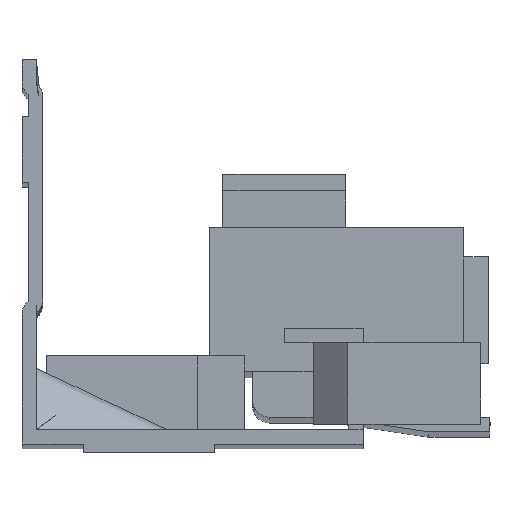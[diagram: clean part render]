
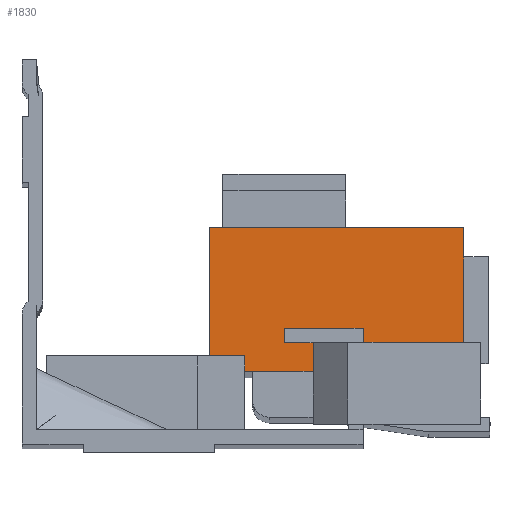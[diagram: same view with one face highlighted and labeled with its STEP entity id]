
A CAD part, front view. The second image highlights one B-rep face of the part: STEP entity #1830.
In plain terms, the highlighted planar face has unit normal (0, -1, 0).
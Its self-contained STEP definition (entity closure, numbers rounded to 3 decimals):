
#393 = ORIENTED_EDGE ( 'NONE', *, *, #3174, .F. ) ;
#394 = ORIENTED_EDGE ( 'NONE', *, *, #3173, .F. ) ;
#395 = ORIENTED_EDGE ( 'NONE', *, *, #3172, .F. ) ;
#396 = ORIENTED_EDGE ( 'NONE', *, *, #3113, .F. ) ;
#397 = ORIENTED_EDGE ( 'NONE', *, *, #3124, .F. ) ;
#398 = ORIENTED_EDGE ( 'NONE', *, *, #3131, .T. ) ;
#399 = ORIENTED_EDGE ( 'NONE', *, *, #3160, .T. ) ;
#400 = ORIENTED_EDGE ( 'NONE', *, *, #3171, .T. ) ;
#401 = ORIENTED_EDGE ( 'NONE', *, *, #3170, .T. ) ;
#402 = ORIENTED_EDGE ( 'NONE', *, *, #3169, .T. ) ;
#403 = ORIENTED_EDGE ( 'NONE', *, *, #3168, .F. ) ;
#404 = ORIENTED_EDGE ( 'NONE', *, *, #3167, .F. ) ;
#450 = EDGE_LOOP ( 'NONE', ( #404, #403, #402, #401, #400, #399, #398, #397, #396, #395, #394, #393 ) ) ;
#932 = AXIS2_PLACEMENT_3D ( 'NONE', #1901, #1902, #1903 ) ;
#1133 = FACE_OUTER_BOUND ( 'NONE', #450, .T. ) ;
#1224 = LINE ( 'NONE', #2054, #1225 ) ;
#1225 = VECTOR ( 'NONE', #2055, 1000. ) ;
#1246 = LINE ( 'NONE', #2076, #1247 ) ;
#1247 = VECTOR ( 'NONE', #2077, 1000. ) ;
#1260 = LINE ( 'NONE', #2090, #1261 ) ;
#1261 = VECTOR ( 'NONE', #2091, 1000. ) ;
#1316 = LINE ( 'NONE', #2152, #1317 ) ;
#1317 = VECTOR ( 'NONE', #2153, 1000. ) ;
#1330 = LINE ( 'NONE', #2166, #1331 ) ;
#1331 = VECTOR ( 'NONE', #2167, 1000. ) ;
#1332 = LINE ( 'NONE', #2168, #1333 ) ;
#1333 = VECTOR ( 'NONE', #2169, 1000. ) ;
#1334 = LINE ( 'NONE', #2170, #1335 ) ;
#1335 = VECTOR ( 'NONE', #2171, 1000. ) ;
#1336 = LINE ( 'NONE', #2172, #1337 ) ;
#1337 = VECTOR ( 'NONE', #2173, 1000. ) ;
#1338 = LINE ( 'NONE', #2174, #1339 ) ;
#1339 = VECTOR ( 'NONE', #2175, 1000. ) ;
#1340 = LINE ( 'NONE', #2176, #1341 ) ;
#1341 = VECTOR ( 'NONE', #2177, 1000. ) ;
#1342 = LINE ( 'NONE', #2178, #1343 ) ;
#1343 = VECTOR ( 'NONE', #2179, 1000. ) ;
#1344 = LINE ( 'NONE', #2180, #1345 ) ;
#1345 = VECTOR ( 'NONE', #2181, 1000. ) ;
#1830 = ADVANCED_FACE ( 'NONE', ( #1133 ), #1900, .F. ) ;
#1900 = PLANE ( 'NONE',  #932 ) ;
#1901 = CARTESIAN_POINT ( 'NONE',  ( 49.9, -20., -27.058 ) ) ;
#1902 = DIRECTION ( 'NONE',  ( 0., 1., 0. ) ) ;
#1903 = DIRECTION ( 'NONE',  ( 1., 0., 0. ) ) ;
#2054 = CARTESIAN_POINT ( 'NONE',  ( 53.9, -20., -9.558 ) ) ;
#2055 = DIRECTION ( 'NONE',  ( 1., 0., 0. ) ) ;
#2076 = CARTESIAN_POINT ( 'NONE',  ( 53.9, -20., -29.558 ) ) ;
#2077 = DIRECTION ( 'NONE',  ( 0., 0., -1. ) ) ;
#2090 = CARTESIAN_POINT ( 'NONE',  ( 49.9, -20., -23.558 ) ) ;
#2091 = DIRECTION ( 'NONE',  ( 1., 0., 0. ) ) ;
#2152 = CARTESIAN_POINT ( 'NONE',  ( 41.6, -20., -35.931 ) ) ;
#2153 = DIRECTION ( 'NONE',  ( 0., 0., -1. ) ) ;
#2166 = CARTESIAN_POINT ( 'NONE',  ( 49.9, -20., -27.058 ) ) ;
#2167 = DIRECTION ( 'NONE',  ( -1., 0., 0. ) ) ;
#2168 = CARTESIAN_POINT ( 'NONE',  ( 35.5, -20., -27.058 ) ) ;
#2169 = DIRECTION ( 'NONE',  ( 0., 0., -1. ) ) ;
#2170 = CARTESIAN_POINT ( 'NONE',  ( 32., -20., -23.608 ) ) ;
#2171 = DIRECTION ( 'NONE',  ( -1., 0., 0. ) ) ;
#2172 = CARTESIAN_POINT ( 'NONE',  ( 32., -20., -21.831 ) ) ;
#2173 = DIRECTION ( 'NONE',  ( 0., 0., 1. ) ) ;
#2174 = CARTESIAN_POINT ( 'NONE',  ( 41.6, -20., -21.858 ) ) ;
#2175 = DIRECTION ( 'NONE',  ( 1., 0., 0. ) ) ;
#2176 = CARTESIAN_POINT ( 'NONE',  ( 22.9, -20., -27.058 ) ) ;
#2177 = DIRECTION ( 'NONE',  ( 0., 0., 1. ) ) ;
#2178 = CARTESIAN_POINT ( 'NONE',  ( 49.9, -20., -25.181 ) ) ;
#2179 = DIRECTION ( 'NONE',  ( -1., 0., 0. ) ) ;
#2180 = CARTESIAN_POINT ( 'NONE',  ( 27.15, -20., -27.058 ) ) ;
#2181 = DIRECTION ( 'NONE',  ( 0., 0., 1. ) ) ;
#2799 = CARTESIAN_POINT ( 'NONE',  ( 53.9, -20., -9.558 ) ) ;
#2828 = CARTESIAN_POINT ( 'NONE',  ( 22.9, -20., -9.558 ) ) ;
#2844 = CARTESIAN_POINT ( 'NONE',  ( 27.15, -20., -25.181 ) ) ;
#2863 = CARTESIAN_POINT ( 'NONE',  ( 41.6, -20., -21.858 ) ) ;
#2910 = CARTESIAN_POINT ( 'NONE',  ( 35.5, -20., -27.058 ) ) ;
#2926 = CARTESIAN_POINT ( 'NONE',  ( 32., -20., -23.608 ) ) ;
#2929 = CARTESIAN_POINT ( 'NONE',  ( 27.15, -20., -27.058 ) ) ;
#2965 = CARTESIAN_POINT ( 'NONE',  ( 41.6, -20., -23.558 ) ) ;
#2976 = CARTESIAN_POINT ( 'NONE',  ( 35.5, -20., -23.608 ) ) ;
#2990 = CARTESIAN_POINT ( 'NONE',  ( 32., -20., -21.858 ) ) ;
#3003 = CARTESIAN_POINT ( 'NONE',  ( 53.9, -20., -23.558 ) ) ;
#3008 = CARTESIAN_POINT ( 'NONE',  ( 22.9, -20., -25.181 ) ) ;
#3113 = EDGE_CURVE ( 'NONE', #3600, #3571, #1224, .T. ) ;
#3124 = EDGE_CURVE ( 'NONE', #3571, #3775, #1246, .T. ) ;
#3131 = EDGE_CURVE ( 'NONE', #3737, #3775, #1260, .T. ) ;
#3160 = EDGE_CURVE ( 'NONE', #3635, #3737, #1316, .T. ) ;
#3167 = EDGE_CURVE ( 'NONE', #3682, #3701, #1330, .T. ) ;
#3168 = EDGE_CURVE ( 'NONE', #3748, #3682, #1332, .T. ) ;
#3169 = EDGE_CURVE ( 'NONE', #3748, #3698, #1334, .T. ) ;
#3170 = EDGE_CURVE ( 'NONE', #3698, #3762, #1336, .T. ) ;
#3171 = EDGE_CURVE ( 'NONE', #3762, #3635, #1338, .T. ) ;
#3172 = EDGE_CURVE ( 'NONE', #3780, #3600, #1340, .T. ) ;
#3173 = EDGE_CURVE ( 'NONE', #3616, #3780, #1342, .T. ) ;
#3174 = EDGE_CURVE ( 'NONE', #3701, #3616, #1344, .T. ) ;
#3571 = VERTEX_POINT ( 'NONE', #2799 ) ;
#3600 = VERTEX_POINT ( 'NONE', #2828 ) ;
#3616 = VERTEX_POINT ( 'NONE', #2844 ) ;
#3635 = VERTEX_POINT ( 'NONE', #2863 ) ;
#3682 = VERTEX_POINT ( 'NONE', #2910 ) ;
#3698 = VERTEX_POINT ( 'NONE', #2926 ) ;
#3701 = VERTEX_POINT ( 'NONE', #2929 ) ;
#3737 = VERTEX_POINT ( 'NONE', #2965 ) ;
#3748 = VERTEX_POINT ( 'NONE', #2976 ) ;
#3762 = VERTEX_POINT ( 'NONE', #2990 ) ;
#3775 = VERTEX_POINT ( 'NONE', #3003 ) ;
#3780 = VERTEX_POINT ( 'NONE', #3008 ) ;
